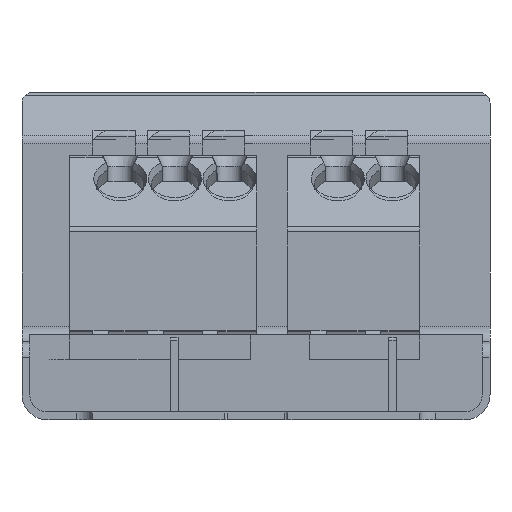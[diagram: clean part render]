
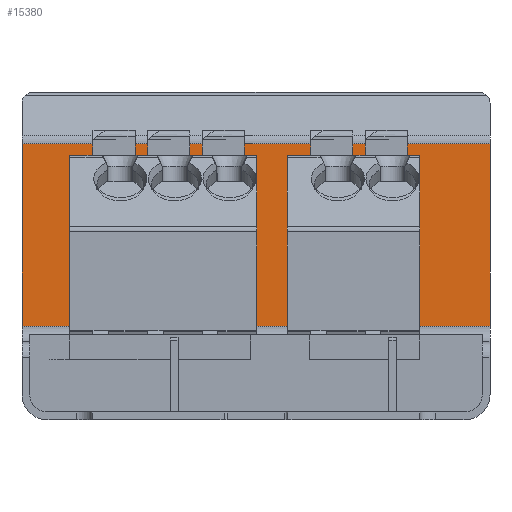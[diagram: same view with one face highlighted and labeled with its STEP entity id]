
A CAD part, front view. The second image highlights one B-rep face of the part: STEP entity #15380.
In plain terms, the highlighted planar face has unit normal (0, -1, 0).
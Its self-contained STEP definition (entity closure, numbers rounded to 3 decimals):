
#1356=DIRECTION('',(1.,0.,0.));
#1357=VECTOR('',#1356,30.);
#1358=CARTESIAN_POINT('',(-101.267,22.289,48.14));
#1359=LINE('',#1358,#1357);
#2407=DIRECTION('',(-1.,0.,0.));
#2408=VECTOR('',#2407,30.);
#2409=CARTESIAN_POINT('',(-71.267,22.289,59.85));
#2410=LINE('',#2409,#2408);
#2421=DIRECTION('',(0.,0.,1.));
#2422=VECTOR('',#2421,11.71);
#2423=CARTESIAN_POINT('',(-101.267,22.289,48.14));
#2424=LINE('',#2423,#2422);
#2428=DIRECTION('',(0.,0.,-1.));
#2429=VECTOR('',#2428,11.71);
#2430=CARTESIAN_POINT('',(-71.267,22.289,59.85));
#2431=LINE('',#2430,#2429);
#11657=CARTESIAN_POINT('',(-101.267,22.289,
48.14));
#11658=VERTEX_POINT('',#11657);
#11659=CARTESIAN_POINT('',(-71.267,22.289,
48.14));
#11660=VERTEX_POINT('',#11659);
#11779=CARTESIAN_POINT('',(-71.267,22.289,
59.85));
#11780=VERTEX_POINT('',#11779);
#11821=CARTESIAN_POINT('',(-101.267,22.289,
59.85));
#11822=VERTEX_POINT('',#11821);
#15369=CARTESIAN_POINT('',(-101.267,22.289,
47.59));
#15370=DIRECTION('',(0.,-1.,0.));
#15371=DIRECTION('',(0.,0.,1.));
#15372=AXIS2_PLACEMENT_3D('',#15369,#15370,#15371);
#15373=PLANE('',#15372);
#15374=ORIENTED_EDGE('',*,*,#14527,.F.);
#15375=ORIENTED_EDGE('',*,*,#15213,.T.);
#15376=ORIENTED_EDGE('',*,*,#15354,.F.);
#15377=ORIENTED_EDGE('',*,*,#14951,.T.);
#15378=EDGE_LOOP('',(#15374,#15375,#15376,#15377));
#15379=FACE_OUTER_BOUND('',#15378,.F.);
#14527=EDGE_CURVE('',#11658,#11660,#1359,.T.);
#14951=EDGE_CURVE('',#11780,#11660,#2431,.T.);
#15213=EDGE_CURVE('',#11658,#11822,#2424,.T.);
#15354=EDGE_CURVE('',#11780,#11822,#2410,.T.);
#15380=ADVANCED_FACE('',(#15379),#15373,.T.);
